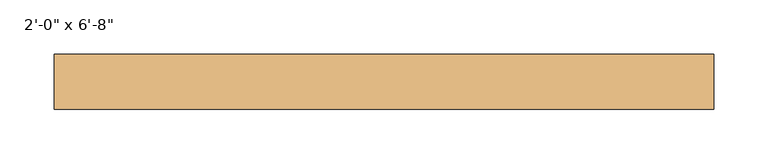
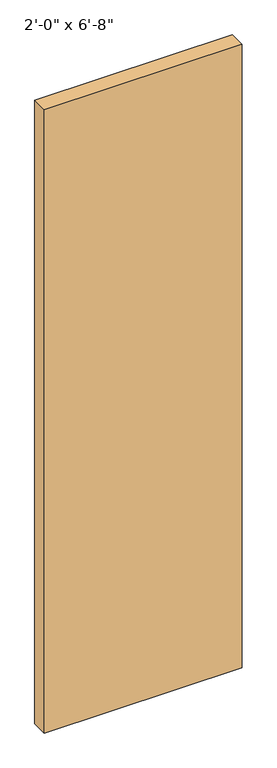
"""IFC4 building model written with IfcOpenShell, lengths in millimetres: door geometry."""

from ifc_helpers import new_model, si_unit, origin, origin_with_axes, place, context, project, spatial, polyline, outline, extrude, source, transform, mapped, element, save


def door_87ea4745(model_context):
    return source(origin(), model_context, "Body", "SweptSolid", [
        extrude(outline(polyline([(304.8, -18.8515625), (304.8, -69.85), (-304.8, -69.85), (-304.8, -18.8515625), (304.8, -18.8515625)])), origin_with_axes(), (0.0, 0.0, 1.0), 2032.0),
    ])


if __name__ == "__main__":
    model = new_model("IFC4")
    model_context = context("Model", 3, world=origin())
    ifc_project = project(units=[si_unit("LENGTHUNIT", "METRE", prefix="MILLI")], contexts=[model_context])
    site = spatial("IfcSite", under=ifc_project)
    building = spatial("IfcBuilding", under=site)
    placement = place(None, origin())
    door_shape = door_87ea4745(model_context)
    element("IfcDoor", 1, ObjectType="Planitar - Single Door_Flush Panel : 2'-0\" x 6'-8\"", at=placement, inside=building, context=model_context, shape_type="MappedRepresentation", body=[
        mapped(door_shape, transform((0.0, 0.0, 0.0), x_axis=(1.0, 0.0, 0.0), y_axis=(0.0, 1.0, 0.0), z_axis=(0.0, 0.0, 1.0))),
    ])
    save(model, "model.ifc")
